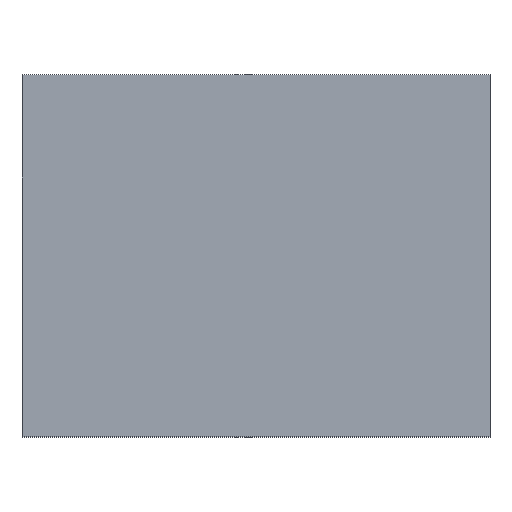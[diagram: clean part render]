
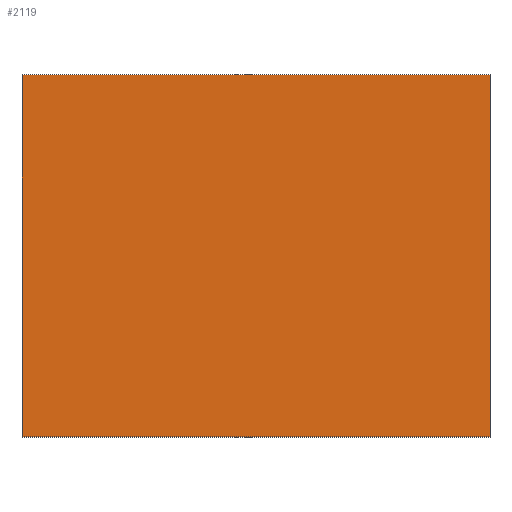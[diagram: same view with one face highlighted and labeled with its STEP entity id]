
A CAD part, top view. The second image highlights one B-rep face of the part: STEP entity #2119.
In plain terms, the highlighted planar face has unit normal (0, 0, 1).
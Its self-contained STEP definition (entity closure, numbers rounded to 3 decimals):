
#1990 = VERTEX_POINT('',#1991);
#1991 = CARTESIAN_POINT('',(-2.56,-1.98,2.));
#2006 = VERTEX_POINT('',#2007);
#2007 = CARTESIAN_POINT('',(-2.56,1.98,2.));
#2013 = EDGE_CURVE('',#1990,#2006,#2014,.T.);
#2014 = LINE('',#2015,#2016);
#2015 = CARTESIAN_POINT('',(-2.56,-1.98,2.));
#2016 = VECTOR('',#2017,1.);
#2017 = DIRECTION('',(-0.,1.,0.));
#2030 = VERTEX_POINT('',#2031);
#2031 = CARTESIAN_POINT('',(2.56,-1.98,2.));
#2046 = VERTEX_POINT('',#2047);
#2047 = CARTESIAN_POINT('',(2.56,1.98,2.));
#2053 = EDGE_CURVE('',#2030,#2046,#2054,.T.);
#2054 = LINE('',#2055,#2056);
#2055 = CARTESIAN_POINT('',(2.56,-1.98,2.));
#2056 = VECTOR('',#2057,1.);
#2057 = DIRECTION('',(-0.,1.,0.));
#2074 = EDGE_CURVE('',#1990,#2030,#2075,.T.);
#2075 = LINE('',#2076,#2077);
#2076 = CARTESIAN_POINT('',(-2.56,-1.98,2.));
#2077 = VECTOR('',#2078,1.);
#2078 = DIRECTION('',(1.,0.,-0.));
#2096 = EDGE_CURVE('',#2006,#2046,#2097,.T.);
#2097 = LINE('',#2098,#2099);
#2098 = CARTESIAN_POINT('',(-2.56,1.98,2.));
#2099 = VECTOR('',#2100,1.);
#2100 = DIRECTION('',(1.,0.,-0.));
#2119 = ADVANCED_FACE('',(#2120),#2126,.T.);
#2120 = FACE_BOUND('',#2121,.T.);
#2121 = EDGE_LOOP('',(#2122,#2123,#2124,#2125));
#2122 = ORIENTED_EDGE('',*,*,#2013,.F.);
#2123 = ORIENTED_EDGE('',*,*,#2074,.T.);
#2124 = ORIENTED_EDGE('',*,*,#2053,.T.);
#2125 = ORIENTED_EDGE('',*,*,#2096,.F.);
#2126 = PLANE('',#2127);
#2127 = AXIS2_PLACEMENT_3D('',#2128,#2129,#2130);
#2128 = CARTESIAN_POINT('',(-2.56,-1.98,2.));
#2129 = DIRECTION('',(0.,0.,1.));
#2130 = DIRECTION('',(1.,0.,-0.));
